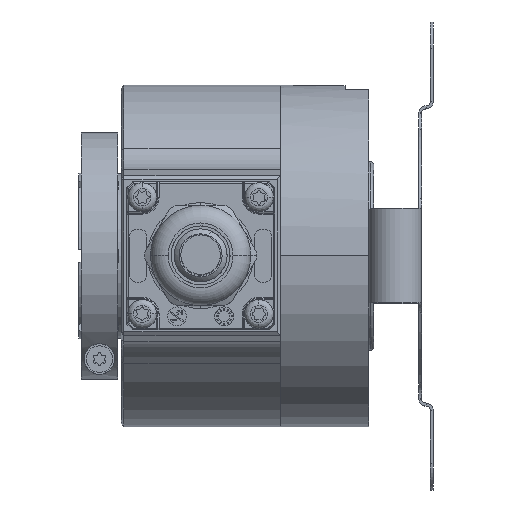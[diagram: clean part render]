
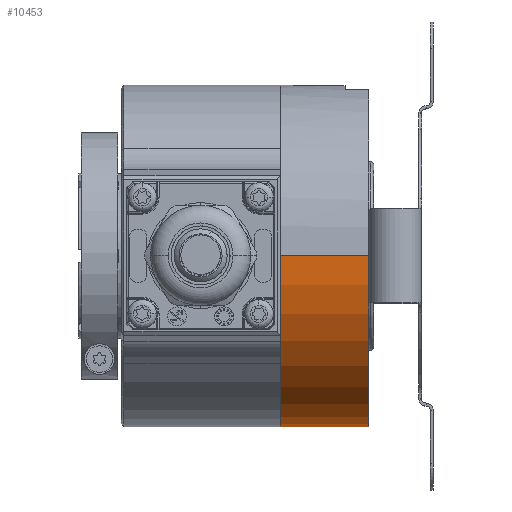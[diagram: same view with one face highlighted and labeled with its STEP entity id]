
A CAD part, top view. The second image highlights one B-rep face of the part: STEP entity #10453.
In plain terms, the highlighted cylindrical face has radius 29 mm (diameter 58 mm), a partial arc.
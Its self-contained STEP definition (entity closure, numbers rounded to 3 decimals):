
#15 = VERTEX_POINT ( 'NONE', #2963 ) ;
#1335 = DIRECTION ( 'NONE',  ( -1., 0., 0. ) ) ;
#1414 = VERTEX_POINT ( 'NONE', #16600 ) ;
#2963 = CARTESIAN_POINT ( 'NONE',  ( 15., 0., -29. ) ) ;
#3532 = CYLINDRICAL_SURFACE ( 'NONE', #11505, 29. ) ;
#5487 = EDGE_CURVE ( 'NONE', #15, #1414, #21990, .T. ) ;
#6384 = CARTESIAN_POINT ( 'NONE',  ( -21.996, 0., -29. ) ) ;
#6601 = EDGE_CURVE ( 'NONE', #1414, #11924, #14771, .T. ) ;
#7114 = EDGE_LOOP ( 'NONE', ( #9601, #17664, #7693, #12926 ) ) ;
#7673 = VECTOR ( 'NONE', #21782, 1000. ) ;
#7693 = ORIENTED_EDGE ( 'NONE', *, *, #6601, .T. ) ;
#7997 = AXIS2_PLACEMENT_3D ( 'NONE', #17661, #23329, #20888 ) ;
#8685 = FACE_OUTER_BOUND ( 'NONE', #7114, .T. ) ;
#8921 = CARTESIAN_POINT ( 'NONE',  ( -21.996, 0., 0. ) ) ;
#9468 = CARTESIAN_POINT ( 'NONE',  ( 15., 0., 0. ) ) ;
#9601 = ORIENTED_EDGE ( 'NONE', *, *, #16098, .F. ) ;
#10453 = ADVANCED_FACE ( 'NONE', ( #8685 ), #3532, .T. ) ;
#10871 = CARTESIAN_POINT ( 'NONE',  ( 0., 0., -29. ) ) ;
#11505 = AXIS2_PLACEMENT_3D ( 'NONE', #8921, #1335, #22199 ) ;
#11924 = VERTEX_POINT ( 'NONE', #15326 ) ;
#12926 = ORIENTED_EDGE ( 'NONE', *, *, #23070, .F. ) ;
#13874 = DIRECTION ( 'NONE',  ( -1., 0., 0. ) ) ;
#14771 = LINE ( 'NONE', #16253, #7673 ) ;
#15259 = DIRECTION ( 'NONE',  ( 0., 0., 1. ) ) ;
#15326 = CARTESIAN_POINT ( 'NONE',  ( 0., 0., 29. ) ) ;
#16098 = EDGE_CURVE ( 'NONE', #15, #17693, #19377, .T. ) ;
#16253 = CARTESIAN_POINT ( 'NONE',  ( -21.996, 0., 29. ) ) ;
#16600 = CARTESIAN_POINT ( 'NONE',  ( 15., 0., 29. ) ) ;
#17198 = DIRECTION ( 'NONE',  ( -1., 0., 0. ) ) ;
#17661 = CARTESIAN_POINT ( 'NONE',  ( 0., 0., 0. ) ) ;
#17664 = ORIENTED_EDGE ( 'NONE', *, *, #5487, .T. ) ;
#17693 = VERTEX_POINT ( 'NONE', #10871 ) ;
#18557 = CIRCLE ( 'NONE', #7997, 29. ) ;
#18831 = AXIS2_PLACEMENT_3D ( 'NONE', #9468, #17198, #15259 ) ;
#19377 = LINE ( 'NONE', #6384, #23515 ) ;
#20888 = DIRECTION ( 'NONE',  ( 0., 0., 1. ) ) ;
#21782 = DIRECTION ( 'NONE',  ( -1., 0., 0. ) ) ;
#21990 = CIRCLE ( 'NONE', #18831, 29. ) ;
#22199 = DIRECTION ( 'NONE',  ( 0., 0., 1. ) ) ;
#23070 = EDGE_CURVE ( 'NONE', #17693, #11924, #18557, .T. ) ;
#23329 = DIRECTION ( 'NONE',  ( -1., 0., 0. ) ) ;
#23515 = VECTOR ( 'NONE', #13874, 1000. ) ;
